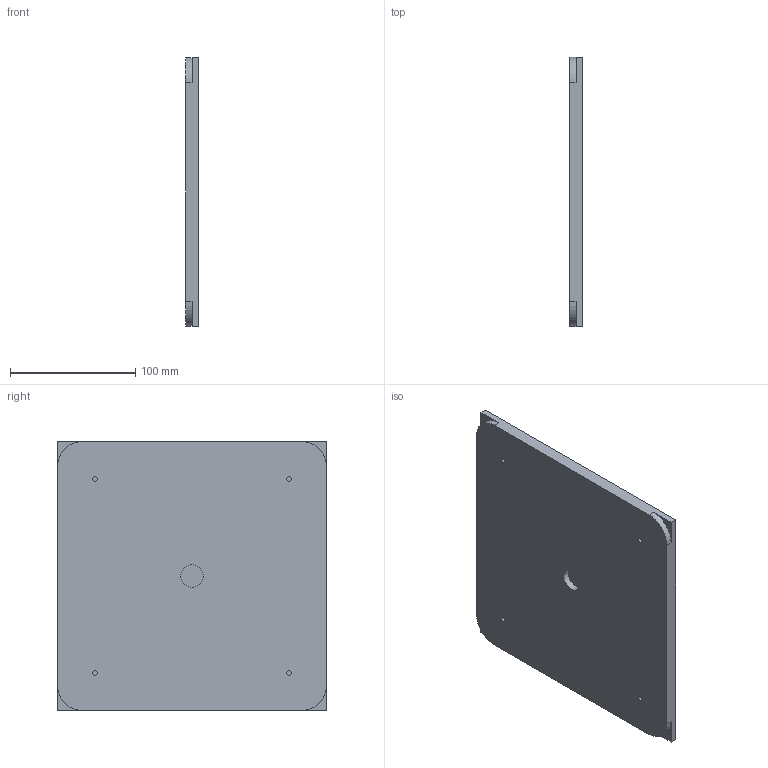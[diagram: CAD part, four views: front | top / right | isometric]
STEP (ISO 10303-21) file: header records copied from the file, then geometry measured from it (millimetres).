
FILE_DESCRIPTION(('CATIA V5 STEP Exchange'),'2;1');
FILE_NAME('C:\Users\Administrator\Desktop\Part2.stp','2021-09-10T07:16:31+00:00',('none'),('none'),'CATIA Version 5 Release 20 GA (IN-10)','CATIA V5 STEP AP203','none');
FILE_SCHEMA(('CONFIG_CONTROL_DESIGN'));
Length unit declared in the file: millimetre
Products named in the file (1): Part1
Bounding box: 10 x 215 x 215 mm (x, y, z)
Volume: 459068.4 mm3; surface area: 101381 mm2
Topology: 1 solids, 1 shells, 29 faces, 66 edges, 44 vertices
Faces by surface type: plane 15, cylinder 14
Entity records: 777 total; most frequent: ORIENTED_EDGE 132, CARTESIAN_POINT 127, DIRECTION 98, EDGE_CURVE 66, AXIS2_PLACEMENT_3D 45, VERTEX_POINT 44, VECTOR 38, LINE 38
